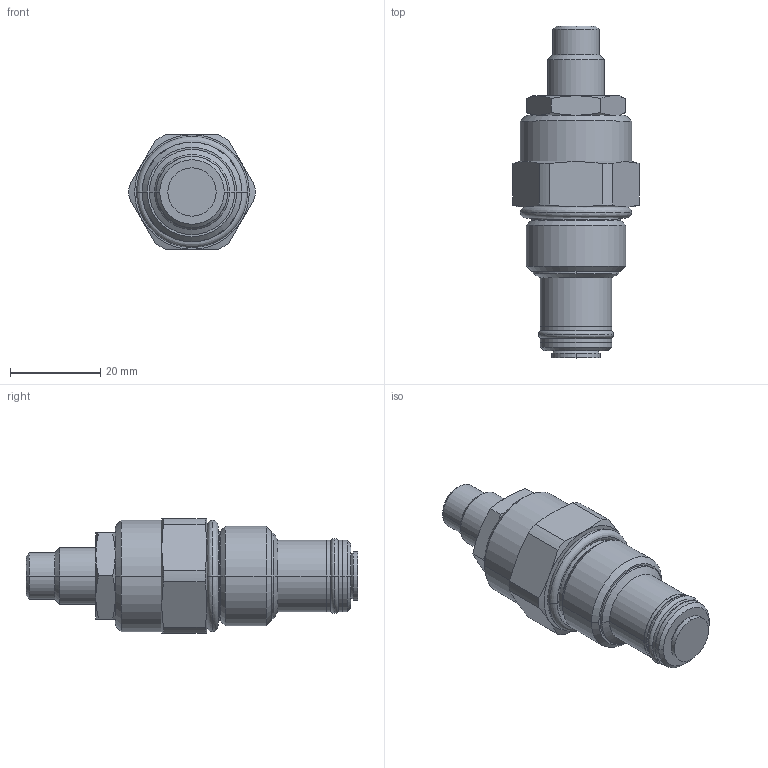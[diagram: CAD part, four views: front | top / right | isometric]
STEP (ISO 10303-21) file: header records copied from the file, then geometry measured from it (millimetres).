
FILE_DESCRIPTION((''),'2;1');
FILE_NAME('5410001_SW0002','2009-02-03T',('jcs'),(''),'PRO/ENGINEER BY PARAMETRIC TECHNOLOGY CORPORATION, 2008010','PRO/ENGINEER BY PARAMETRIC TECHNOLOGY CORPORATION, 2008010','');
FILE_SCHEMA(('CONFIG_CONTROL_DESIGN'));
Length unit declared in the file: inch
Products named in the file (1): 5410001_SW0002
Bounding box: 27.94 x 73.46 x 25.4 mm (x, y, z)
Volume: 22101.1 mm3; surface area: 6865.7 mm2
Topology: 3 solids, 3 shells, 151 faces, 346 edges, 205 vertices
Faces by surface type: cone 46, plane 41, cylinder 36, revolution 16, torus 12
Entity records: 4832 total; most frequent: CARTESIAN_POINT 1410, DIRECTION 724, ORIENTED_EDGE 688, EDGE_CURVE 344, AXIS2_PLACEMENT_3D 299, VERTEX_POINT 205, CIRCLE 164, EDGE_LOOP 161
